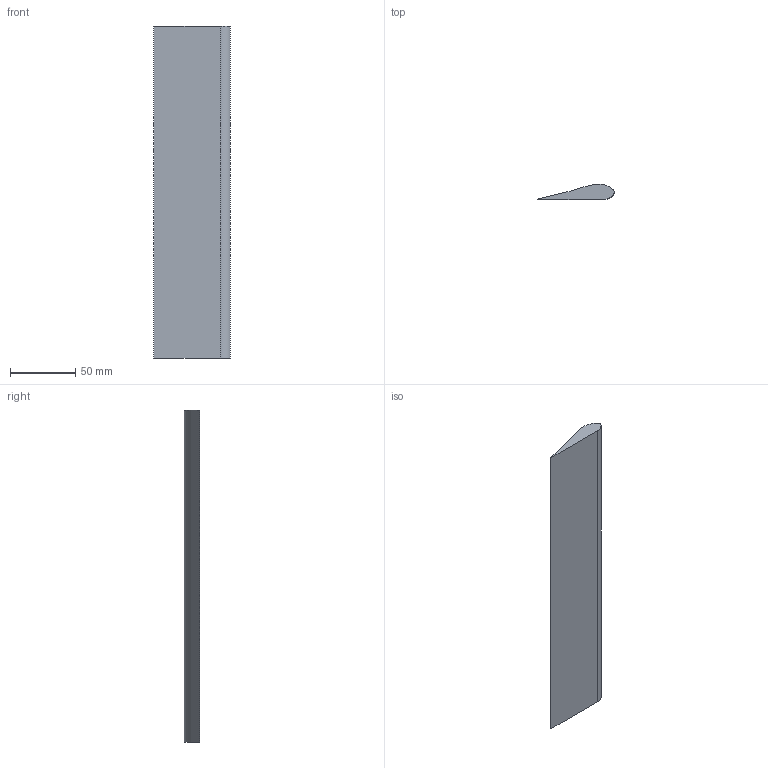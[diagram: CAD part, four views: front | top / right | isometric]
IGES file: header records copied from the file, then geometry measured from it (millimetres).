
Start section: Modal analysis of a model airplane wing
Global section: file name: wing.iges; native system: ANSYS; preprocessor:   11.0      UP20061227; date: 000110.200833; units: inch
Bounding box: 58.43 x 11.52 x 254 mm (x, y, z)
Volume: 98374.6 mm3; surface area: 32071.1 mm2
Topology: 1 solids, 1 shells, 5 faces, 9 edges, 8 vertices
Faces by surface type: bspline 5
